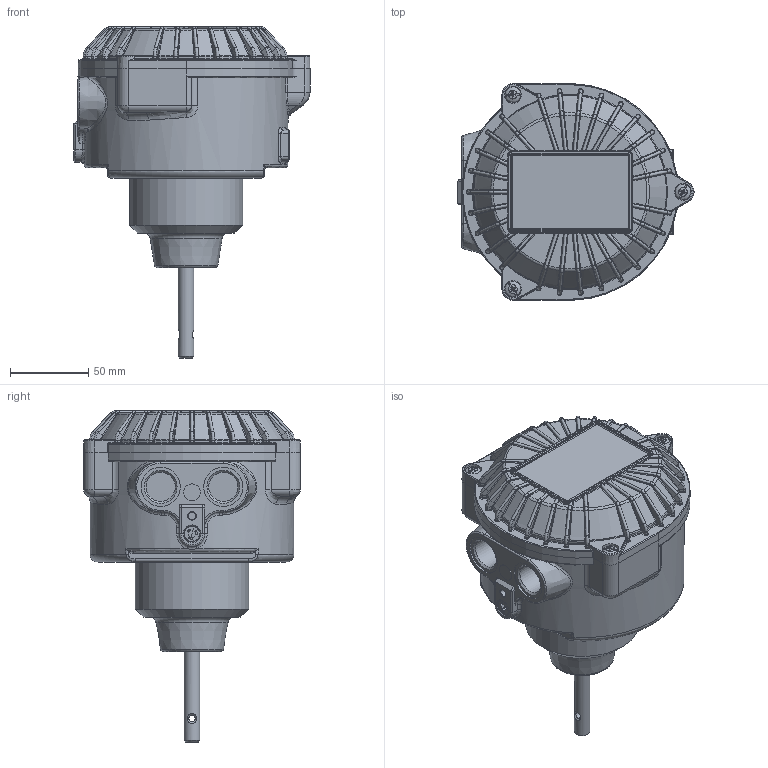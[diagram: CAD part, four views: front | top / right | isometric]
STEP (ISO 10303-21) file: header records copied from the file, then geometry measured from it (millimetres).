
FILE_DESCRIPTION(/* description */ (''),/* implementation_level */ '2;1');
FILE_NAME(/* name */ '\\srvgest\camlogic\TEMP\Kulwant S\2_STEP\2_STEP\PFG05\PFG-05 C.stp',/* time_stamp */ '2021-06-10T10:33:53+02:00',/* author */ ('kulwant.singh'),/* organization */ (''),/* preprocessor_version */ 'ST-DEVELOPER v18.1',/* originating_system */ 'Autodesk Inventor 2022',/* authorisation */ '');
FILE_SCHEMA (('AUTOMOTIVE_DESIGN { 1 0 10303 214 3 1 1 }'));
Products named in the file (1): PFG-05 C
Bounding box: 150.5 x 138 x 211.7 mm (x, y, z)
Volume: 1430779.7 mm3; surface area: 88053.8 mm2
Topology: 1 solids, 1 shells, 1963 faces, 4579 edges, 2623 vertices
Faces by surface type: bspline 699, cylinder 399, plane 333, torus 225, cone 191, sphere 116
Full cylindrical faces by diameter (mm): 4.134 x1, 4.65 x1, 10 x4, 10.5 x1, 10.75 x1, 10.8 x3, 18.631 x2, 25 x2, 72.226 x1
Entity records: 79507 total; most frequent: CARTESIAN_POINT 36978, ORIENTED_EDGE 9128, DIRECTION 7550, EDGE_CURVE 4564, AXIS2_PLACEMENT_3D 3225, VERTEX_POINT 2623, EDGE_LOOP 1985, FACE_OUTER_BOUND 1963
